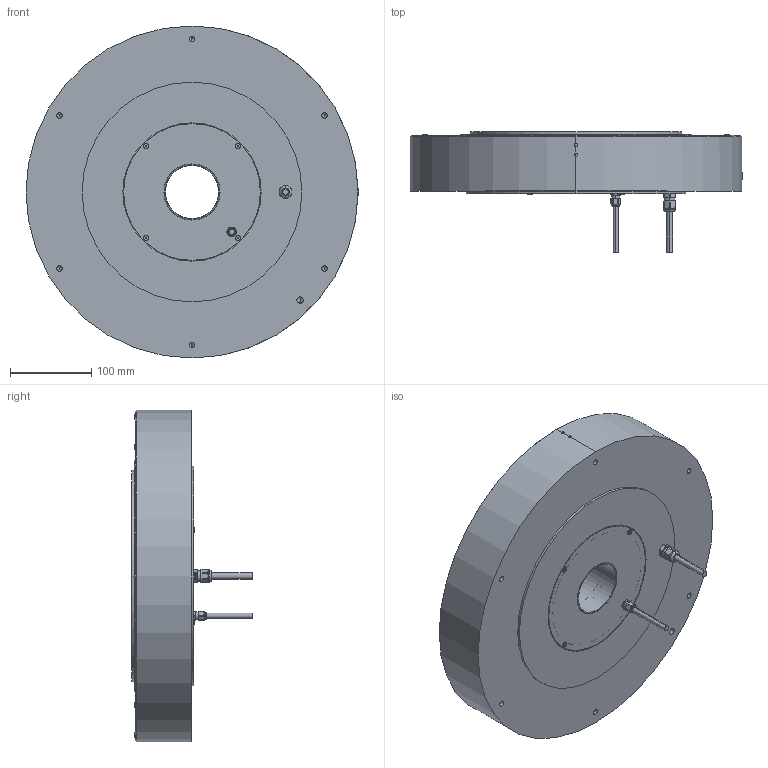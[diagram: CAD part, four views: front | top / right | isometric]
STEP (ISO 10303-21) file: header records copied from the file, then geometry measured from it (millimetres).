
FILE_DESCRIPTION (( 'STEP AP214' ), '1' );
FILE_NAME ('ND400-70-LSB-UC.step', '2025-03-11T01:10:28', ( '' ), ( '' ), 'SwSTEP 2.0', 'SolidWorks 2024', '' );
FILE_SCHEMA (( 'AUTOMOTIVE_DESIGN' ));
Length unit declared in the file: millimetre
Products named in the file (1): ND400-70-LSB-UC
Bounding box: 408 x 148 x 408 mm (x, y, z)
Volume: 3886025.3 mm3; surface area: 768071.3 mm2
Topology: 31 solids, 31 shells, 1092 faces, 2709 edges, 1680 vertices
Faces by surface type: cylinder 573, plane 222, cone 198, torus 71, sphere 28
Entity records: 34613 total; most frequent: CARTESIAN_POINT 8476, DIRECTION 5596, ORIENTED_EDGE 5210, EDGE_CURVE 2605, AXIS2_PLACEMENT_3D 2298, VERTEX_POINT 1680, EDGE_LOOP 1271, CIRCLE 1205
